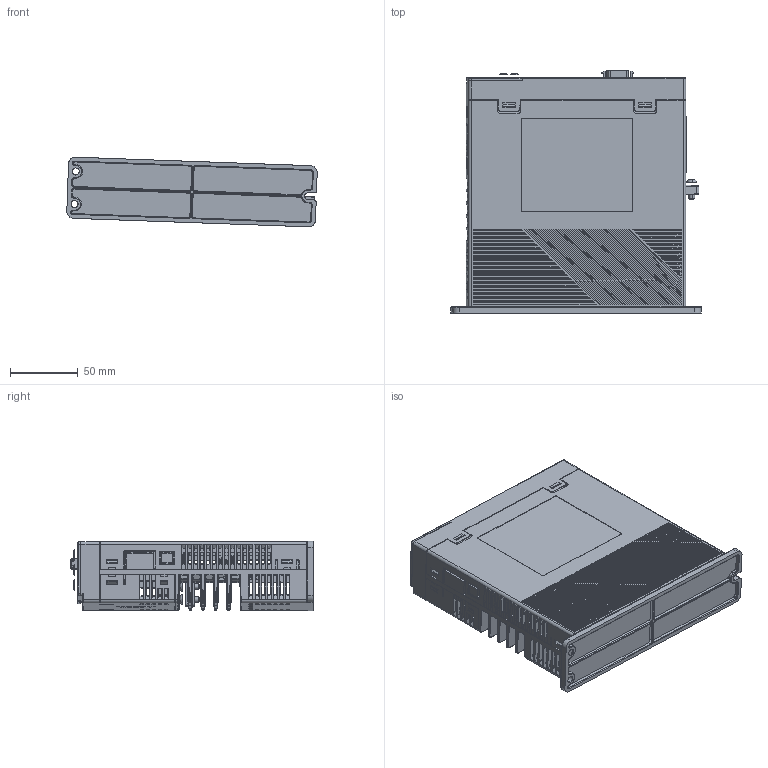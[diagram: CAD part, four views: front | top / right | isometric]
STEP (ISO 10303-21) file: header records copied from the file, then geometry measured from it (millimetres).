
FILE_DESCRIPTION((''),'2;1');
FILE_NAME('23CRN-01-00_45_SW0003','2025-09-30T14:01:44',('wuyh130'),(''),'CREO PARAMETRIC BY PTC INC, 2021063','CREO PARAMETRIC BY PTC INC, 2021063','');
FILE_SCHEMA(('AUTOMOTIVE_DESIGN { 1 0 10303 214 1 1 1 1 }'));
Products named in the file (1): 23CRN-01-00_45_SW0003
Bounding box: 184.15 x 178.2 x 51.22 mm (x, y, z)
Surface area: 235383.3 mm2 (no closed solid volume)
Topology: 0 solids, 339 shells, 2582 faces, 14984 edges, 12349 vertices
Faces by surface type: plane 1589, cylinder 656, bspline 144, extrusion 101, cone 53, torus 23, sphere 16
Entity records: 182925 total; most frequent: CARTESIAN_POINT 59876, DIRECTION 19760, ORIENTED_EDGE 18985, EDGE_CURVE 14976, VERTEX_POINT 12349, VECTOR 10921, LINE 10820, AXIS2_PLACEMENT_3D 4418
